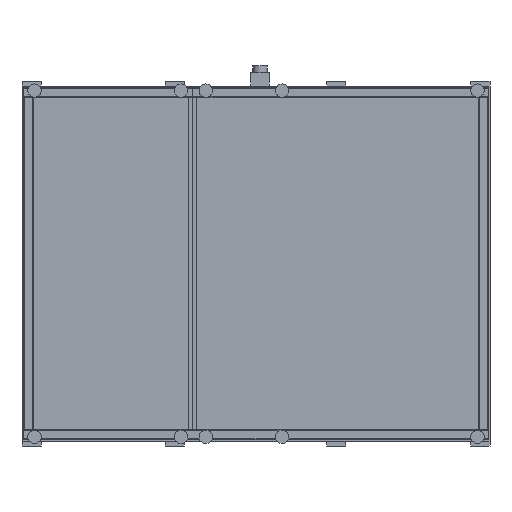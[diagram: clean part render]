
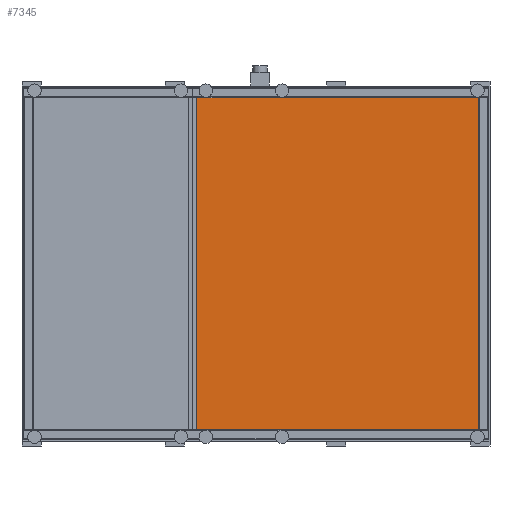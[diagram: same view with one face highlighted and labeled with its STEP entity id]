
A CAD part, front view. The second image highlights one B-rep face of the part: STEP entity #7345.
In plain terms, the highlighted planar face has unit normal (0, -1, 0).
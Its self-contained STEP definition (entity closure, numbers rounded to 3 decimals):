
#300=PLANE('',#8081);
#720=FACE_OUTER_BOUND('',#1160,.T.);
#1160=EDGE_LOOP('',(#5866,#5867,#5868,#5869));
#1657=LINE('',#11347,#2416);
#1672=LINE('',#11376,#2431);
#1680=LINE('',#11392,#2439);
#1744=LINE('',#11519,#2503);
#2416=VECTOR('',#9322,10.);
#2431=VECTOR('',#9347,10.);
#2439=VECTOR('',#9361,10.);
#2503=VECTOR('',#9463,10.);
#3601=VERTEX_POINT('',#11341);
#3603=VERTEX_POINT('',#11345);
#3612=VERTEX_POINT('',#11374);
#3617=VERTEX_POINT('',#11391);
#4422=EDGE_CURVE('',#3601,#3603,#1657,.T.);
#4437=EDGE_CURVE('',#3603,#3612,#1672,.T.);
#4445=EDGE_CURVE('',#3617,#3601,#1680,.T.);
#4509=EDGE_CURVE('',#3617,#3612,#1744,.T.);
#5866=ORIENTED_EDGE('',*,*,#4422,.T.);
#5867=ORIENTED_EDGE('',*,*,#4437,.T.);
#5868=ORIENTED_EDGE('',*,*,#4509,.F.);
#5869=ORIENTED_EDGE('',*,*,#4445,.T.);
#7345=ADVANCED_FACE('',(#720),#300,.T.);
#8081=AXIS2_PLACEMENT_3D('',#11521,#9465,#9466);
#9322=DIRECTION('',(0.,0.,1.));
#9347=DIRECTION('',(-1.,0.,0.));
#9361=DIRECTION('',(1.,0.,0.));
#9463=DIRECTION('',(0.,0.,1.));
#9465=DIRECTION('center_axis',(0.,-1.,0.));
#9466=DIRECTION('ref_axis',(0.,0.,-1.));
#11341=CARTESIAN_POINT('',(1165.,-1045.,-870.));
#11345=CARTESIAN_POINT('',(1165.,-1045.,870.));
#11347=CARTESIAN_POINT('',(1165.,-1045.,232.5));
#11374=CARTESIAN_POINT('',(-309.,-1045.,870.));
#11376=CARTESIAN_POINT('',(0.,-1045.,870.));
#11391=CARTESIAN_POINT('',(-309.,-1045.,-870.));
#11392=CARTESIAN_POINT('',(0.,-1045.,-870.));
#11519=CARTESIAN_POINT('',(-309.,-1045.,697.5));
#11521=CARTESIAN_POINT('Origin',(0.,-1045.,465.));
